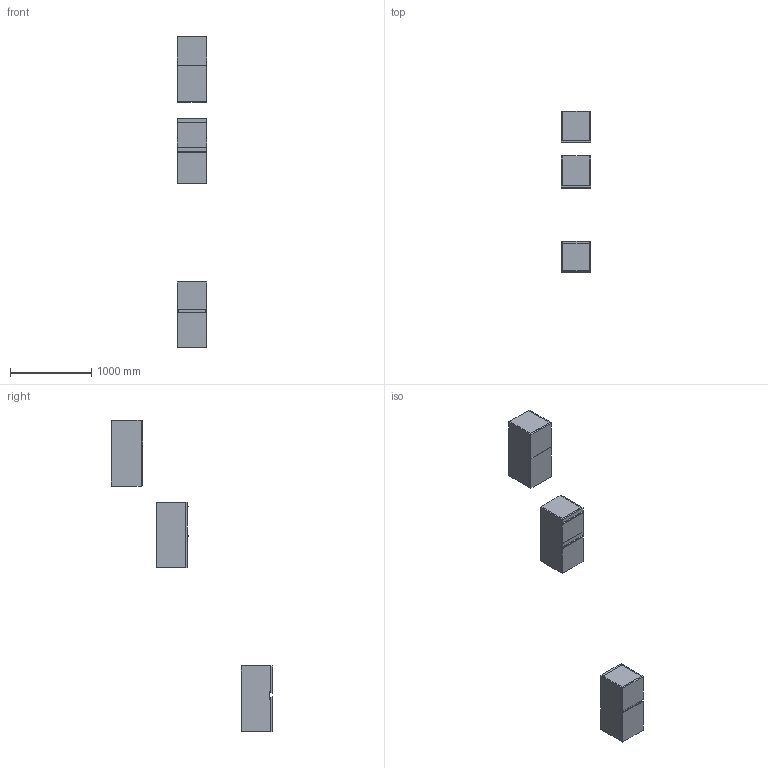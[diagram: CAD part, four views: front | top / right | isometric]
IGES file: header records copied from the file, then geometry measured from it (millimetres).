
Start section: Data from Parasolid IGES Translator 19.0.9, Copyright(c) 2006 Siemens PL M Software. All Rights Reserved.
Global section: file name: noorth-SI-H 81,2 D 38,8 W 36_8682.igs; native system: By Siemens PLM Incorporated; preprocessor: XPlus GENERIC/IGES 19.0.9; author: Noname; organization: Noname; date: 20200601.123100; units: metre
Bounding box: 360 x 1986 x 3842 mm (x, y, z)
Volume: 59349207.6 mm3; surface area: 8992481.5 mm2
Topology: 25 solids, 25 shells, 254 faces, 556 edges, 332 vertices
Faces by surface type: plane 170, extrusion 36, bspline 32, cylinder 16
